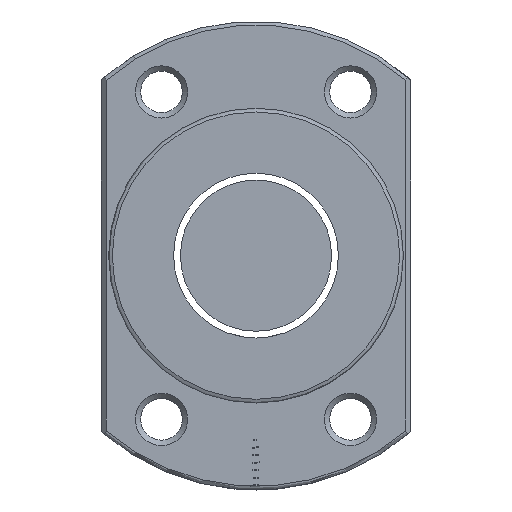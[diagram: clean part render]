
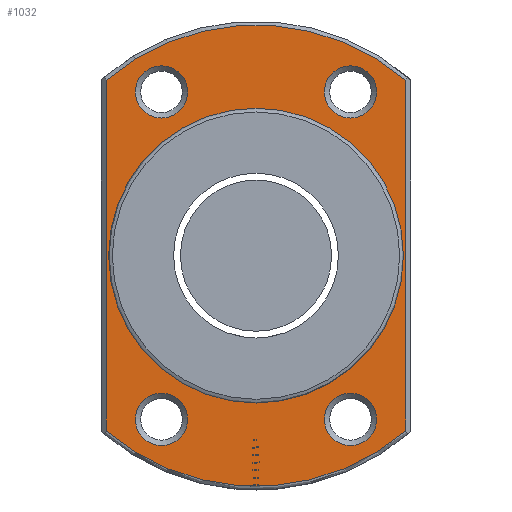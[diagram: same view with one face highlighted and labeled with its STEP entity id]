
A CAD part, left-side view. The second image highlights one B-rep face of the part: STEP entity #1032.
In plain terms, the highlighted planar face has unit normal (-1, 0, 0).
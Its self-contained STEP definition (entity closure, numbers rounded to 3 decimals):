
#72 = DIRECTION ( 'NONE',  ( 0., 0., 1. ) ) ;
#113 = CARTESIAN_POINT ( 'NONE',  ( -39., 19.8, 23.199 ) ) ;
#120 = DIRECTION ( 'NONE',  ( 0., 0., 1. ) ) ;
#125 = CARTESIAN_POINT ( 'NONE',  ( -39., -19.8, 0. ) ) ;
#254 = PLANE ( 'NONE',  #388 ) ;
#258 = CIRCLE ( 'NONE', #1055, 3.45 ) ;
#304 = EDGE_LOOP ( 'NONE', ( #1479, #2432, #2261, #1132 ) ) ;
#310 = CARTESIAN_POINT ( 'NONE',  ( -39., -12.5, 21.651 ) ) ;
#336 = ORIENTED_EDGE ( 'NONE', *, *, #1896, .T. ) ;
#381 = DIRECTION ( 'NONE',  ( 0., 0., 1. ) ) ;
#383 = EDGE_CURVE ( 'NONE', #1714, #1557, #2497, .T. ) ;
#388 = AXIS2_PLACEMENT_3D ( 'NONE', #2179, #1504, #72 ) ;
#417 = DIRECTION ( 'NONE',  ( 1., 0., 0. ) ) ;
#433 = DIRECTION ( 'NONE',  ( 0., 0., 1. ) ) ;
#470 = EDGE_CURVE ( 'NONE', #1257, #1714, #638, .T. ) ;
#492 = EDGE_LOOP ( 'NONE', ( #336 ) ) ;
#516 = CIRCLE ( 'NONE', #2883, 3.45 ) ;
#557 = DIRECTION ( 'NONE',  ( 0., 0., 1. ) ) ;
#560 = FACE_BOUND ( 'NONE', #1272, .T. ) ;
#574 = DIRECTION ( 'NONE',  ( 1., 0., 0. ) ) ;
#586 = VERTEX_POINT ( 'NONE', #2039 ) ;
#612 = AXIS2_PLACEMENT_3D ( 'NONE', #310, #1094, #843 ) ;
#614 = LINE ( 'NONE', #125, #1162 ) ;
#632 = AXIS2_PLACEMENT_3D ( 'NONE', #1003, #1459, #735 ) ;
#638 = CIRCLE ( 'NONE', #2368, 30.5 ) ;
#657 = EDGE_LOOP ( 'NONE', ( #2711 ) ) ;
#666 = CARTESIAN_POINT ( 'NONE',  ( -39., 12.5, 25.101 ) ) ;
#735 = DIRECTION ( 'NONE',  ( 0., 0., 1. ) ) ;
#785 = DIRECTION ( 'NONE',  ( 0., 0., 1. ) ) ;
#843 = DIRECTION ( 'NONE',  ( 0., 0., 1. ) ) ;
#889 = VERTEX_POINT ( 'NONE', #3031 ) ;
#1003 = CARTESIAN_POINT ( 'NONE',  ( -39., 0., 0. ) ) ;
#1032 = ADVANCED_FACE ( 'NONE', ( #2645, #2675, #2620, #560, #1689, #1473 ), #254, .T. ) ;
#1046 = CARTESIAN_POINT ( 'NONE',  ( -39., -19.8, 23.199 ) ) ;
#1047 = DIRECTION ( 'NONE',  ( 0., 0., -1. ) ) ;
#1055 = AXIS2_PLACEMENT_3D ( 'NONE', #1153, #417, #433 ) ;
#1089 = CARTESIAN_POINT ( 'NONE',  ( -39., -12.5, -21.651 ) ) ;
#1094 = DIRECTION ( 'NONE',  ( 1., 0., 0. ) ) ;
#1132 = ORIENTED_EDGE ( 'NONE', *, *, #470, .T. ) ;
#1136 = EDGE_CURVE ( 'NONE', #1557, #586, #1233, .T. ) ;
#1153 = CARTESIAN_POINT ( 'NONE',  ( -39., 12.5, -21.651 ) ) ;
#1162 = VECTOR ( 'NONE', #381, 1000. ) ;
#1233 = CIRCLE ( 'NONE', #632, 30.5 ) ;
#1257 = VERTEX_POINT ( 'NONE', #1046 ) ;
#1265 = CARTESIAN_POINT ( 'NONE',  ( -39., 0., 0. ) ) ;
#1272 = EDGE_LOOP ( 'NONE', ( #1463 ) ) ;
#1401 = CIRCLE ( 'NONE', #2141, 19.5 ) ;
#1459 = DIRECTION ( 'NONE',  ( -1., 0., 0. ) ) ;
#1463 = ORIENTED_EDGE ( 'NONE', *, *, #1572, .T. ) ;
#1467 = EDGE_LOOP ( 'NONE', ( #1728 ) ) ;
#1473 = FACE_OUTER_BOUND ( 'NONE', #304, .T. ) ;
#1479 = ORIENTED_EDGE ( 'NONE', *, *, #383, .T. ) ;
#1504 = DIRECTION ( 'NONE',  ( -1., 0., 0. ) ) ;
#1557 = VERTEX_POINT ( 'NONE', #1621 ) ;
#1572 = EDGE_CURVE ( 'NONE', #2225, #2225, #258, .T. ) ;
#1584 = DIRECTION ( 'NONE',  ( 0., 0., -1. ) ) ;
#1593 = VERTEX_POINT ( 'NONE', #2549 ) ;
#1607 = CARTESIAN_POINT ( 'NONE',  ( -39., 0., -19.5 ) ) ;
#1621 = CARTESIAN_POINT ( 'NONE',  ( -39., 19.8, -23.199 ) ) ;
#1689 = FACE_BOUND ( 'NONE', #2455, .T. ) ;
#1714 = VERTEX_POINT ( 'NONE', #113 ) ;
#1728 = ORIENTED_EDGE ( 'NONE', *, *, #2665, .T. ) ;
#1734 = CARTESIAN_POINT ( 'NONE',  ( -39., 12.5, -18.201 ) ) ;
#1771 = CARTESIAN_POINT ( 'NONE',  ( -39., 19.8, 0. ) ) ;
#1813 = VERTEX_POINT ( 'NONE', #666 ) ;
#1826 = VERTEX_POINT ( 'NONE', #1607 ) ;
#1896 = EDGE_CURVE ( 'NONE', #1593, #1593, #2929, .T. ) ;
#1948 = CIRCLE ( 'NONE', #612, 3.45 ) ;
#1961 = DIRECTION ( 'NONE',  ( 1., 0., 0. ) ) ;
#2002 = CARTESIAN_POINT ( 'NONE',  ( -39., 0., 0. ) ) ;
#2039 = CARTESIAN_POINT ( 'NONE',  ( -39., -19.8, -23.199 ) ) ;
#2141 = AXIS2_PLACEMENT_3D ( 'NONE', #1265, #2241, #1047 ) ;
#2179 = CARTESIAN_POINT ( 'NONE',  ( -39., 31., 0. ) ) ;
#2225 = VERTEX_POINT ( 'NONE', #1734 ) ;
#2241 = DIRECTION ( 'NONE',  ( 1., 0., 0. ) ) ;
#2261 = ORIENTED_EDGE ( 'NONE', *, *, #2885, .T. ) ;
#2368 = AXIS2_PLACEMENT_3D ( 'NONE', #2002, #2495, #120 ) ;
#2415 = VECTOR ( 'NONE', #1584, 1000. ) ;
#2432 = ORIENTED_EDGE ( 'NONE', *, *, #1136, .T. ) ;
#2435 = CARTESIAN_POINT ( 'NONE',  ( -39., 12.5, 21.651 ) ) ;
#2455 = EDGE_LOOP ( 'NONE', ( #2907 ) ) ;
#2495 = DIRECTION ( 'NONE',  ( -1., 0., 0. ) ) ;
#2497 = LINE ( 'NONE', #1771, #2415 ) ;
#2549 = CARTESIAN_POINT ( 'NONE',  ( -39., -12.5, -18.201 ) ) ;
#2620 = FACE_BOUND ( 'NONE', #1467, .T. ) ;
#2645 = FACE_BOUND ( 'NONE', #492, .T. ) ;
#2665 = EDGE_CURVE ( 'NONE', #1813, #1813, #516, .T. ) ;
#2675 = FACE_BOUND ( 'NONE', #657, .T. ) ;
#2711 = ORIENTED_EDGE ( 'NONE', *, *, #2980, .T. ) ;
#2883 = AXIS2_PLACEMENT_3D ( 'NONE', #2435, #1961, #785 ) ;
#2885 = EDGE_CURVE ( 'NONE', #586, #1257, #614, .T. ) ;
#2907 = ORIENTED_EDGE ( 'NONE', *, *, #2991, .T. ) ;
#2929 = CIRCLE ( 'NONE', #2972, 3.45 ) ;
#2972 = AXIS2_PLACEMENT_3D ( 'NONE', #1089, #574, #557 ) ;
#2980 = EDGE_CURVE ( 'NONE', #889, #889, #1948, .T. ) ;
#2991 = EDGE_CURVE ( 'NONE', #1826, #1826, #1401, .T. ) ;
#3031 = CARTESIAN_POINT ( 'NONE',  ( -39., -12.5, 25.101 ) ) ;
